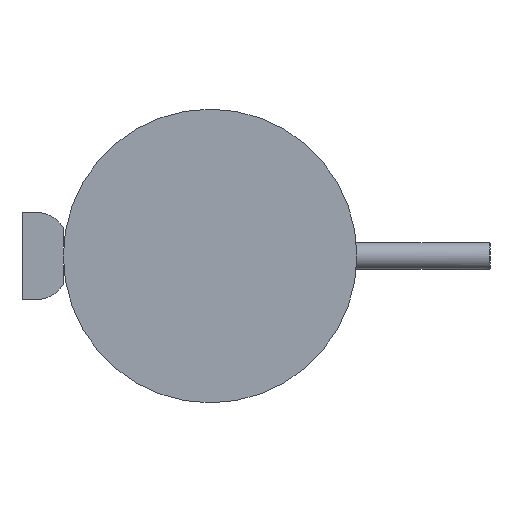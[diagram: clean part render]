
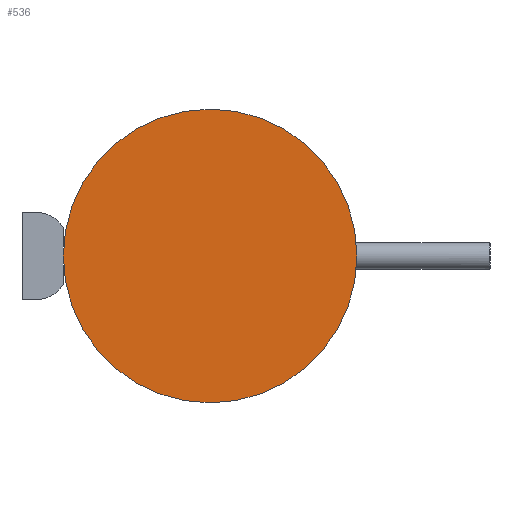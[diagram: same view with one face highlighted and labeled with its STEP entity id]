
A CAD part, front view. The second image highlights one B-rep face of the part: STEP entity #536.
In plain terms, the highlighted planar face has unit normal (0, -1, 0).
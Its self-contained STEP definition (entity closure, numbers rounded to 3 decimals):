
#1=CARTESIAN_POINT('',(0.,0.,0.));
#2=DIRECTION('',(0.,1.,0.));
#3=DIRECTION('',(0.,0.,-1.));
#4=AXIS2_PLACEMENT_3D('',#1,#2,#3);
#6=CARTESIAN_POINT('',(0.,0.,0.));
#7=DIRECTION('',(0.,1.,0.));
#8=DIRECTION('',(0.,0.,1.));
#9=AXIS2_PLACEMENT_3D('',#6,#7,#8);
#421=CARTESIAN_POINT('',(0.,0.,-32.));
#422=CARTESIAN_POINT('',(0.,0.,32.));
#423=VERTEX_POINT('',#421);
#424=VERTEX_POINT('',#422);
#525=CARTESIAN_POINT('',(0.,0.,0.));
#526=DIRECTION('',(0.,1.,0.));
#527=DIRECTION('',(0.,0.,-1.));
#528=AXIS2_PLACEMENT_3D('',#525,#526,#527);
#529=PLANE('',#528);
#531=ORIENTED_EDGE('',*,*,#530,.T.);
#533=ORIENTED_EDGE('',*,*,#532,.T.);
#534=EDGE_LOOP('',(#531,#533));
#535=FACE_OUTER_BOUND('',#534,.F.);
#536=ADVANCED_FACE('',(#535),#529,.F.);
#5=CIRCLE('',#4,32.);
#10=CIRCLE('',#9,32.);
#530=EDGE_CURVE('',#423,#424,#5,.T.);
#532=EDGE_CURVE('',#424,#423,#10,.T.);
